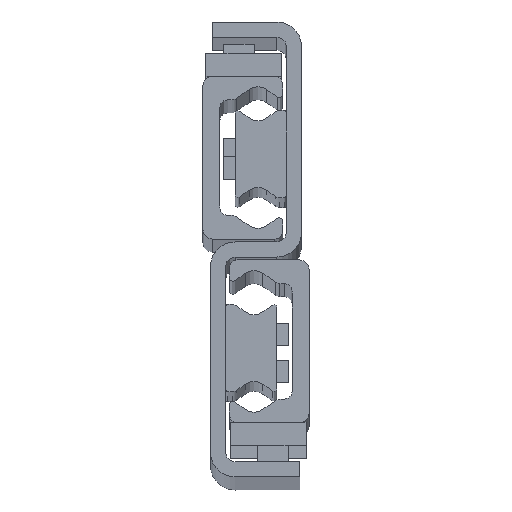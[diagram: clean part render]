
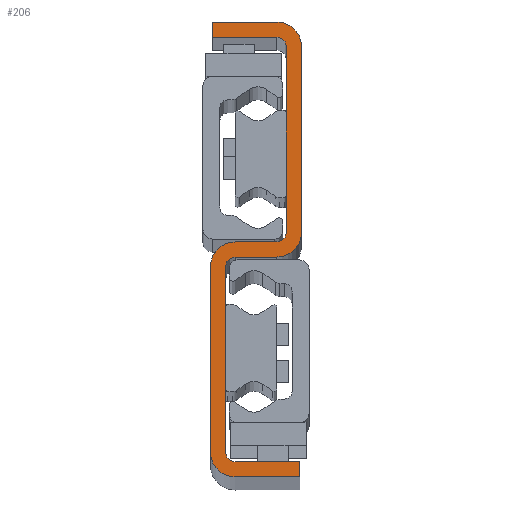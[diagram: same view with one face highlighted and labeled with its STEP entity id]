
A CAD part, top view. The second image highlights one B-rep face of the part: STEP entity #206.
In plain terms, the highlighted planar face has unit normal (0, 0, 1).
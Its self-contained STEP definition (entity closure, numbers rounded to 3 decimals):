
#206=ADVANCED_FACE('',(#777),#778,.T.);
#777=FACE_OUTER_BOUND('',#1739,.T.);
#778=PLANE('',#1740);
#1739=EDGE_LOOP('',(#3421,#3422,#3423,#3424,#3425,#3426,#3427,#3428,#3429,#3430,#3431,#3432,#3433,#3434,#3435,#3436,#3437,#3438,#3439,#3440));
#1740=AXIS2_PLACEMENT_3D('',#3441,#3442,#3443);
#3421=ORIENTED_EDGE('',*,*,#6129,.F.);
#3422=ORIENTED_EDGE('',*,*,#6187,.F.);
#3423=ORIENTED_EDGE('',*,*,#6184,.F.);
#3424=ORIENTED_EDGE('',*,*,#6181,.F.);
#3425=ORIENTED_EDGE('',*,*,#6178,.F.);
#3426=ORIENTED_EDGE('',*,*,#6175,.F.);
#3427=ORIENTED_EDGE('',*,*,#6172,.F.);
#3428=ORIENTED_EDGE('',*,*,#6169,.F.);
#3429=ORIENTED_EDGE('',*,*,#6166,.F.);
#3430=ORIENTED_EDGE('',*,*,#6163,.F.);
#3431=ORIENTED_EDGE('',*,*,#6160,.F.);
#3432=ORIENTED_EDGE('',*,*,#6157,.F.);
#3433=ORIENTED_EDGE('',*,*,#6154,.F.);
#3434=ORIENTED_EDGE('',*,*,#6151,.F.);
#3435=ORIENTED_EDGE('',*,*,#6148,.F.);
#3436=ORIENTED_EDGE('',*,*,#6145,.F.);
#3437=ORIENTED_EDGE('',*,*,#6142,.F.);
#3438=ORIENTED_EDGE('',*,*,#6139,.F.);
#3439=ORIENTED_EDGE('',*,*,#6136,.F.);
#3440=ORIENTED_EDGE('',*,*,#6133,.F.);
#3441=CARTESIAN_POINT('',(-14.,26.,2983.0));
#3442=DIRECTION('',(0.0,0.0,1.0));
#3443=DIRECTION('',(1.0,0.0,0.0));
#6129=EDGE_CURVE('',#7407,#7408,#7409,.T.);
#6133=EDGE_CURVE('',#7408,#7415,#7416,.T.);
#6136=EDGE_CURVE('',#7415,#7420,#7421,.T.);
#6139=EDGE_CURVE('',#7420,#7425,#7426,.T.);
#6142=EDGE_CURVE('',#7425,#7430,#7431,.T.);
#6145=EDGE_CURVE('',#7430,#7435,#7436,.T.);
#6148=EDGE_CURVE('',#7435,#7440,#7441,.T.);
#6151=EDGE_CURVE('',#7440,#7445,#7446,.T.);
#6154=EDGE_CURVE('',#7445,#7450,#7451,.T.);
#6157=EDGE_CURVE('',#7450,#7455,#7456,.T.);
#6160=EDGE_CURVE('',#7455,#7460,#7461,.T.);
#6163=EDGE_CURVE('',#7460,#7465,#7466,.T.);
#6166=EDGE_CURVE('',#7465,#7470,#7471,.T.);
#6169=EDGE_CURVE('',#7470,#7475,#7476,.T.);
#6172=EDGE_CURVE('',#7475,#7480,#7481,.T.);
#6175=EDGE_CURVE('',#7480,#7485,#7486,.T.);
#6178=EDGE_CURVE('',#7485,#7490,#7491,.T.);
#6181=EDGE_CURVE('',#7490,#7495,#7496,.T.);
#6184=EDGE_CURVE('',#7495,#7500,#7501,.T.);
#6187=EDGE_CURVE('',#7500,#7407,#7505,.T.);
#7407=VERTEX_POINT('',#9393);
#7408=VERTEX_POINT('',#9394);
#7409=LINE('',#9395,#9396);
#7415=VERTEX_POINT('',#9405);
#7416=CIRCLE('',#9406,2.5);
#7420=VERTEX_POINT('',#9411);
#7421=LINE('',#9412,#9413);
#7425=VERTEX_POINT('',#9419);
#7426=CIRCLE('',#9420,2.5);
#7430=VERTEX_POINT('',#9425);
#7431=LINE('',#9426,#9427);
#7435=VERTEX_POINT('',#9433);
#7436=LINE('',#9434,#9435);
#7440=VERTEX_POINT('',#9441);
#7441=LINE('',#9442,#9443);
#7445=VERTEX_POINT('',#9449);
#7446=CIRCLE('',#9450,6.5);
#7450=VERTEX_POINT('',#9455);
#7451=LINE('',#9456,#9457);
#7455=VERTEX_POINT('',#9463);
#7456=CIRCLE('',#9464,6.5);
#7460=VERTEX_POINT('',#9469);
#7461=LINE('',#9470,#9471);
#7465=VERTEX_POINT('',#9477);
#7466=CIRCLE('',#9478,2.5);
#7470=VERTEX_POINT('',#9483);
#7471=LINE('',#9484,#9485);
#7475=VERTEX_POINT('',#9491);
#7476=CIRCLE('',#9492,2.5);
#7480=VERTEX_POINT('',#9497);
#7481=LINE('',#9498,#9499);
#7485=VERTEX_POINT('',#9505);
#7486=LINE('',#9506,#9507);
#7490=VERTEX_POINT('',#9513);
#7491=LINE('',#9514,#9515);
#7495=VERTEX_POINT('',#9521);
#7496=CIRCLE('',#9522,6.5);
#7500=VERTEX_POINT('',#9527);
#7501=LINE('',#9528,#9529);
#7505=CIRCLE('',#9535,6.5);
#9393=CARTESIAN_POINT('',(-8.5,24.,2983.0));
#9394=CARTESIAN_POINT('',(-19.5,24.,2983.0));
#9395=CARTESIAN_POINT('',(-8.5,24.,2983.0));
#9396=VECTOR('',#11589,1.0);
#9405=CARTESIAN_POINT('',(-22.,21.5,2983.0));
#9406=AXIS2_PLACEMENT_3D('',#11593,#11594,#11595);
#9411=CARTESIAN_POINT('',(-22.,-27.5,2983.0));
#9412=CARTESIAN_POINT('',(-22.,-27.5,2983.0));
#9413=VECTOR('',#11600,1.0);
#9419=CARTESIAN_POINT('',(-19.5,-30.,2983.0));
#9420=AXIS2_PLACEMENT_3D('',#11603,#11604,#11605);
#9425=CARTESIAN_POINT('',(-2.5,-30.,2983.0));
#9426=CARTESIAN_POINT('',(-19.5,-30.,2983.0));
#9427=VECTOR('',#11610,1.0);
#9433=CARTESIAN_POINT('',(-2.5,-34.,2983.0));
#9434=CARTESIAN_POINT('',(-2.5,-34.,2983.0));
#9435=VECTOR('',#11613,1.0);
#9441=CARTESIAN_POINT('',(-19.5,-34.,2983.0));
#9442=CARTESIAN_POINT('',(-19.5,-34.,2983.0));
#9443=VECTOR('',#11616,1.0);
#9449=CARTESIAN_POINT('',(-26.,-27.5,2983.0));
#9450=AXIS2_PLACEMENT_3D('',#11619,#11620,#11621);
#9455=CARTESIAN_POINT('',(-26.,21.5,2983.0));
#9456=CARTESIAN_POINT('',(-26.,21.5,2983.0));
#9457=VECTOR('',#11626,1.0);
#9463=CARTESIAN_POINT('',(-19.5,28.,2983.0));
#9464=AXIS2_PLACEMENT_3D('',#11629,#11630,#11631);
#9469=CARTESIAN_POINT('',(-8.5,28.,2983.0));
#9470=CARTESIAN_POINT('',(-8.5,28.,2983.0));
#9471=VECTOR('',#11636,1.0);
#9477=CARTESIAN_POINT('',(-6.,30.5,2983.0));
#9478=AXIS2_PLACEMENT_3D('',#11639,#11640,#11641);
#9483=CARTESIAN_POINT('',(-6.,79.5,2983.0));
#9484=CARTESIAN_POINT('',(-6.,79.5,2983.0));
#9485=VECTOR('',#11646,1.0);
#9491=CARTESIAN_POINT('',(-8.5,82.,2983.0));
#9492=AXIS2_PLACEMENT_3D('',#11649,#11650,#11651);
#9497=CARTESIAN_POINT('',(-25.5,82.,2983.0));
#9498=CARTESIAN_POINT('',(-25.5,82.,2983.0));
#9499=VECTOR('',#11656,1.0);
#9505=CARTESIAN_POINT('',(-25.5,86.,2983.0));
#9506=CARTESIAN_POINT('',(-25.5,86.,2983.0));
#9507=VECTOR('',#11659,1.0);
#9513=CARTESIAN_POINT('',(-8.5,86.,2983.0));
#9514=CARTESIAN_POINT('',(-25.5,86.,2983.0));
#9515=VECTOR('',#11662,1.0);
#9521=CARTESIAN_POINT('',(-2.,79.5,2983.0));
#9522=AXIS2_PLACEMENT_3D('',#11665,#11666,#11667);
#9527=CARTESIAN_POINT('',(-2.,30.5,2983.0));
#9528=CARTESIAN_POINT('',(-2.,79.5,2983.0));
#9529=VECTOR('',#11672,1.0);
#9535=AXIS2_PLACEMENT_3D('',#11675,#11676,#11677);
#11589=DIRECTION('',(-1.0,0.,0.0));
#11593=CARTESIAN_POINT('',(-19.5,21.5,2983.0));
#11594=DIRECTION('',(0.0,0.0,1.0));
#11595=DIRECTION('',(1.0,0.0,0.0));
#11600=DIRECTION('',(-0.0,-1.0,-0.0));
#11603=CARTESIAN_POINT('',(-19.5,-27.5,2983.0));
#11604=DIRECTION('',(0.0,0.0,1.0));
#11605=DIRECTION('',(1.0,0.0,0.0));
#11610=DIRECTION('',(1.,0.,0.0));
#11613=DIRECTION('',(-0.0,-1.0,-0.0));
#11616=DIRECTION('',(-1.,0.,-0.0));
#11619=CARTESIAN_POINT('',(-19.5,-27.5,2983.0));
#11620=DIRECTION('',(0.0,0.0,-1.0));
#11621=DIRECTION('',(1.0,0.0,0.0));
#11626=DIRECTION('',(0.0,1.0,0.0));
#11629=CARTESIAN_POINT('',(-19.5,21.5,2983.0));
#11630=DIRECTION('',(0.0,0.0,-1.0));
#11631=DIRECTION('',(1.0,0.0,0.0));
#11636=DIRECTION('',(1.0,0.,0.0));
#11639=CARTESIAN_POINT('',(-8.5,30.5,2983.0));
#11640=DIRECTION('',(0.0,0.0,1.0));
#11641=DIRECTION('',(1.0,0.0,0.0));
#11646=DIRECTION('',(0.0,1.0,0.0));
#11649=CARTESIAN_POINT('',(-8.5,79.5,2983.0));
#11650=DIRECTION('',(0.0,0.0,1.0));
#11651=DIRECTION('',(1.0,0.0,0.0));
#11656=DIRECTION('',(-1.,0.,0.0));
#11659=DIRECTION('',(0.0,1.0,0.0));
#11662=DIRECTION('',(1.,0.,0.0));
#11665=CARTESIAN_POINT('',(-8.5,79.5,2983.0));
#11666=DIRECTION('',(0.0,0.0,-1.0));
#11667=DIRECTION('',(1.0,0.0,0.0));
#11672=DIRECTION('',(0.,-1.0,0.0));
#11675=CARTESIAN_POINT('',(-8.5,30.5,2983.0));
#11676=DIRECTION('',(0.0,0.0,-1.0));
#11677=DIRECTION('',(1.0,0.0,0.0));
